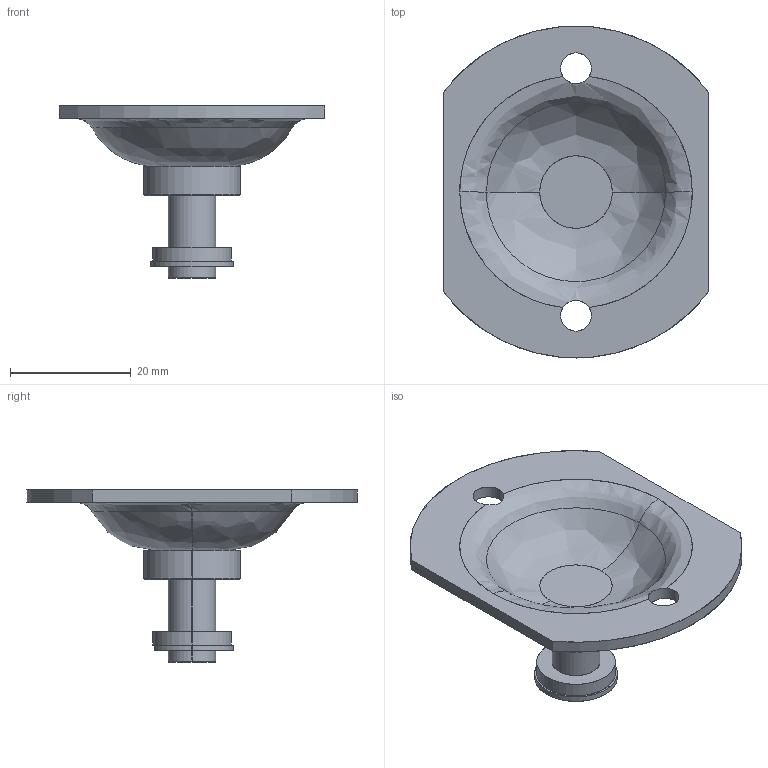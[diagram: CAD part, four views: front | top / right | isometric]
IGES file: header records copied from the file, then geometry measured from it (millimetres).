
Start section: SolidWorks IGES file using analytic representation for surfaces
Bounding box: 44 x 55 x 28.5 mm (x, y, z)
Surface area: 6330.2 mm2 (no closed solid volume)
Topology: 0 solids, 0 shells, 50 faces, 960 edges, 960 vertices
Faces by surface type: revolution 27, bspline 23
